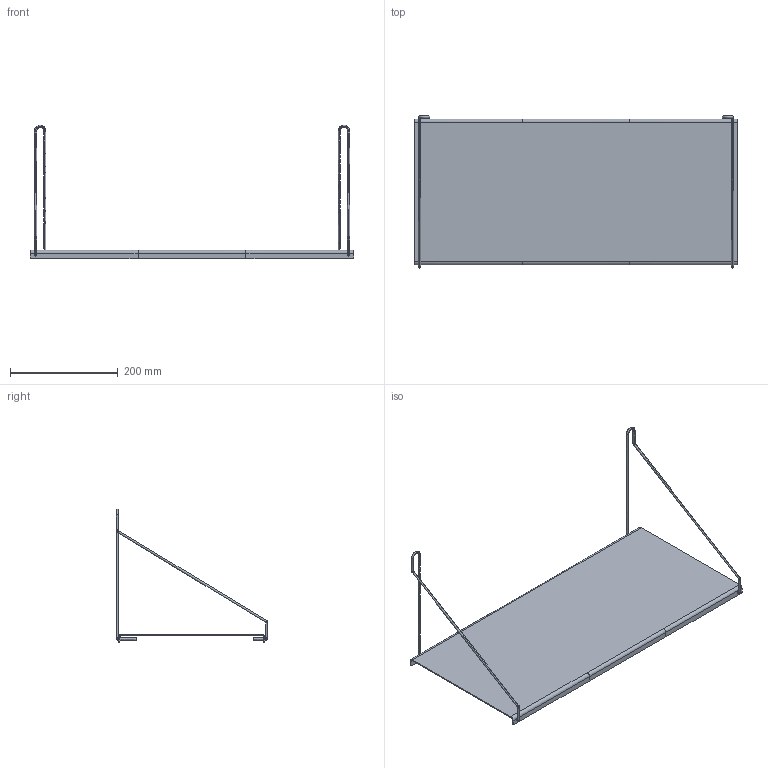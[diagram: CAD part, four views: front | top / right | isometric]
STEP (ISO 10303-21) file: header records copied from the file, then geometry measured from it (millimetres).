
FILE_DESCRIPTION(/* description */ (''),/* implementation_level */ '2;1');
FILE_NAME(/* name */ 'FRAMA_Shelf_Library_Single_Shelf_27x60_3D_File',/* time_stamp */ '2023-05-26T10:20:29+02:00',/* author */ (''),/* organization */ (''),/* preprocessor_version */ 'ST-DEVELOPER v16.5',/* originating_system */ 'Rhino 7.29',/* authorisation */ '');
FILE_SCHEMA (('CONFIG_CONTROL_DESIGN'));
Length unit declared in the file: millimetre
Products named in the file (1): Document
Bounding box: 600 x 281.31 x 247.49 mm (x, y, z)
Volume: 318524.1 mm3; surface area: 377064.9 mm2
Topology: 6 solids, 9 shells, 496 faces, 1277 edges, 800 vertices
Faces by surface type: cylinder 296, bspline 156, plane 44
Entity records: 23467 total; most frequent: CARTESIAN_POINT 15581, ORIENTED_EDGE 2528, EDGE_CURVE 1273, VERTEX_POINT 792, B_SPLINE_CURVE_WITH_KNOTS 630, EDGE_LOOP 508, ADVANCED_FACE 496, FACE_OUTER_BOUND 496
